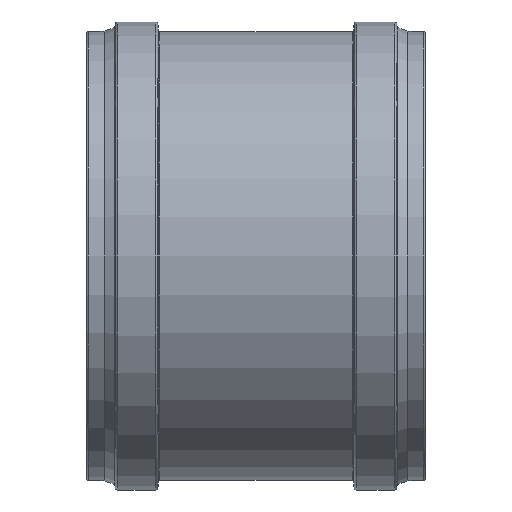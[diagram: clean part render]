
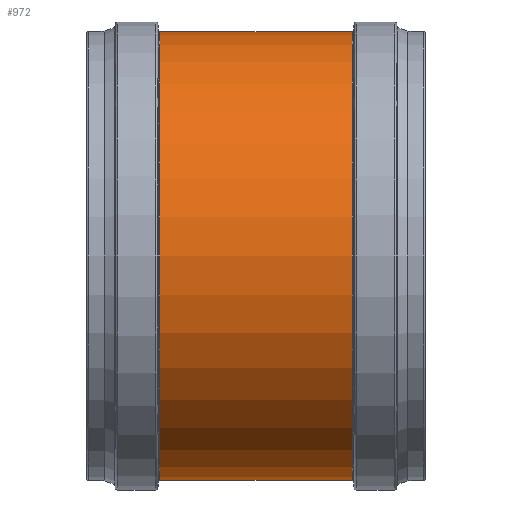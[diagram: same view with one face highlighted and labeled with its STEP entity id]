
A CAD part, left-side view. The second image highlights one B-rep face of the part: STEP entity #972.
In plain terms, the highlighted cylindrical face has radius 335.3 mm (diameter 670.6 mm), a full revolution.
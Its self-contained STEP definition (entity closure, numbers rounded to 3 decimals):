
#28=CYLINDRICAL_SURFACE('',#1116,335.3);
#47=LINE('',#1772,#73);
#73=VECTOR('',#1414,335.3);
#128=FACE_OUTER_BOUND('',#186,.T.);
#186=EDGE_LOOP('',(#758,#759,#760,#761,#762,#763));
#217=CIRCLE('',#1025,335.3);
#221=CIRCLE('',#1029,335.3);
#282=CIRCLE('',#1117,335.3);
#283=CIRCLE('',#1118,335.3);
#347=VERTEX_POINT('',#1612);
#348=VERTEX_POINT('',#1613);
#399=VERTEX_POINT('',#1768);
#400=VERTEX_POINT('',#1769);
#451=EDGE_CURVE('',#347,#348,#217,.T.);
#455=EDGE_CURVE('',#348,#347,#221,.T.);
#528=EDGE_CURVE('',#399,#400,#282,.T.);
#529=EDGE_CURVE('',#400,#399,#283,.T.);
#530=EDGE_CURVE('',#400,#348,#47,.T.);
#758=ORIENTED_EDGE('',*,*,#528,.F.);
#759=ORIENTED_EDGE('',*,*,#529,.F.);
#760=ORIENTED_EDGE('',*,*,#530,.T.);
#761=ORIENTED_EDGE('',*,*,#455,.T.);
#762=ORIENTED_EDGE('',*,*,#451,.T.);
#763=ORIENTED_EDGE('',*,*,#530,.F.);
#972=ADVANCED_FACE('',(#128),#28,.T.);
#1025=AXIS2_PLACEMENT_3D('',#1614,#1214,#1215);
#1029=AXIS2_PLACEMENT_3D('',#1620,#1222,#1223);
#1116=AXIS2_PLACEMENT_3D('',#1767,#1408,#1409);
#1117=AXIS2_PLACEMENT_3D('',#1770,#1410,#1411);
#1118=AXIS2_PLACEMENT_3D('',#1771,#1412,#1413);
#1214=DIRECTION('center_axis',(0.,1.,0.));
#1215=DIRECTION('ref_axis',(1.,0.,0.));
#1222=DIRECTION('center_axis',(0.,1.,0.));
#1223=DIRECTION('ref_axis',(1.,0.,0.));
#1408=DIRECTION('center_axis',(0.,1.,0.));
#1409=DIRECTION('ref_axis',(-1.,0.,0.));
#1410=DIRECTION('center_axis',(0.,1.,0.));
#1411=DIRECTION('ref_axis',(1.,0.,0.));
#1412=DIRECTION('center_axis',(0.,1.,0.));
#1413=DIRECTION('ref_axis',(1.,0.,0.));
#1414=DIRECTION('',(0.,-1.,0.));
#1612=CARTESIAN_POINT('',(0.,-143.727,-335.3));
#1613=CARTESIAN_POINT('',(335.3,-143.727,0.));
#1614=CARTESIAN_POINT('Origin',(0.,-143.727,
0.));
#1620=CARTESIAN_POINT('Origin',(0.,-143.727,
0.));
#1767=CARTESIAN_POINT('Origin',(0.,71.864,
0.));
#1768=CARTESIAN_POINT('',(0.,143.727,-335.3));
#1769=CARTESIAN_POINT('',(335.3,143.727,0.));
#1770=CARTESIAN_POINT('Origin',(0.,143.727,
0.));
#1771=CARTESIAN_POINT('Origin',(0.,143.727,
0.));
#1772=CARTESIAN_POINT('',(335.3,71.864,0.));
